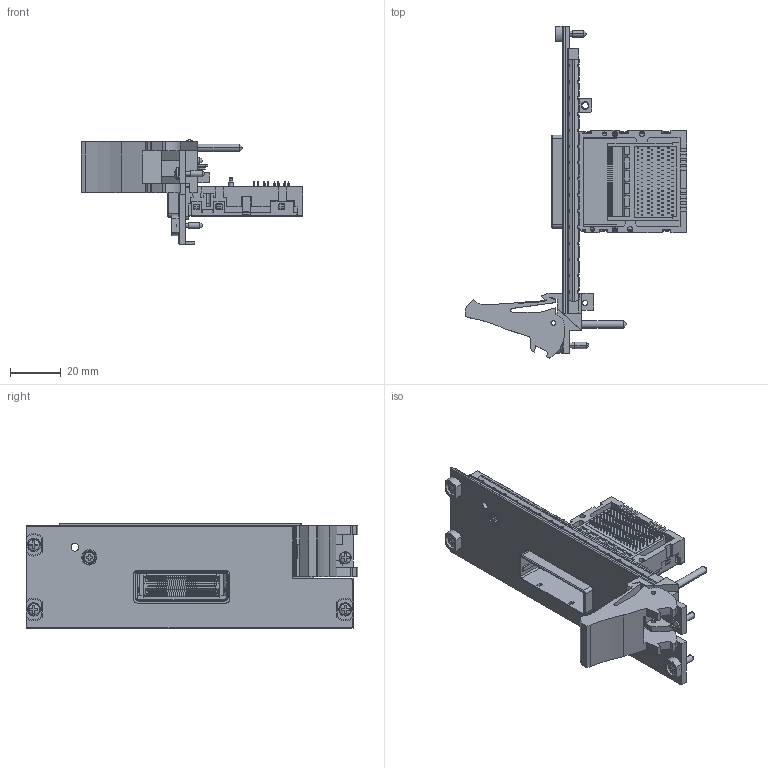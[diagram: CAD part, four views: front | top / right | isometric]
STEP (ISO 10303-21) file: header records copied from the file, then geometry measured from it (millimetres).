
FILE_DESCRIPTION((''),'2;1');
FILE_NAME('CU_PXIE-8388','2012-04-11T',('talbott'),(''),'PRO/ENGINEER BY PARAMETRIC TECHNOLOGY CORPORATION, 2010230','PRO/ENGINEER BY PARAMETRIC TECHNOLOGY CORPORATION, 2010230','');
FILE_SCHEMA(('CONFIG_CONTROL_DESIGN'));
Length unit declared in the file: inch
Products named in the file (1): CU_PXIE-8388
Bounding box: 87.07 x 130.5 x 41.13 mm (x, y, z)
Volume: 34725.7 mm3; surface area: 34497.7 mm2
Topology: 1 solids, 2 shells, 4466 faces, 13448 edges, 9142 vertices
Faces by surface type: plane 3216, cylinder 1178, torus 34, cone 28, sphere 6, bspline 2, extrusion 2
Entity records: 156952 total; most frequent: CARTESIAN_POINT 32494, ORIENTED_EDGE 26896, DIRECTION 24964, EDGE_CURVE 13448, VECTOR 10136, LINE 10134, VERTEX_POINT 9142, AXIS2_PLACEMENT_3D 7414
